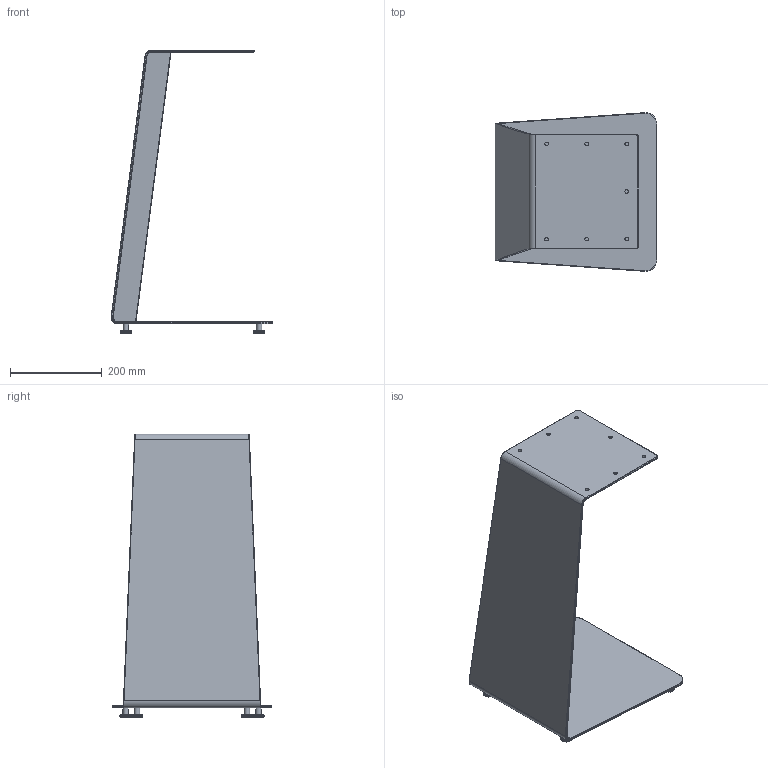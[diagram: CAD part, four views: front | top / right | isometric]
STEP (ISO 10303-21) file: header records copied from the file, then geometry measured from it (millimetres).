
FILE_DESCRIPTION(/* description */ (''),/* implementation_level */ '2;1');
FILE_NAME(/* name */ 'kinoshita_abord_tl011',/* time_stamp */ '2025-07-23T13:22:46+09:00',/* author */ (''),/* organization */ (''),/* preprocessor_version */ 'ST-DEVELOPER v16.5',/* originating_system */ '',/* authorisation */ '');
FILE_SCHEMA (('AUTOMOTIVE_DESIGN'));
Length unit declared in the file: millimetre
Products named in the file (1): Document
Bounding box: 353.14 x 346.38 x 620 mm (x, y, z)
Volume: 1660662.8 mm3; surface area: 749339.5 mm2
Topology: 9 solids, 9 shells, 121 faces, 261 edges, 150 vertices
Faces by surface type: bspline 111, plane 10
Entity records: 9645 total; most frequent: CARTESIAN_POINT 8224, ORIENTED_EDGE 506, EDGE_CURVE 253, VERTEX_POINT 150, EDGE_LOOP 135, ADVANCED_FACE 121, FACE_OUTER_BOUND 121, B_SPLINE_CURVE_WITH_KNOTS 40
